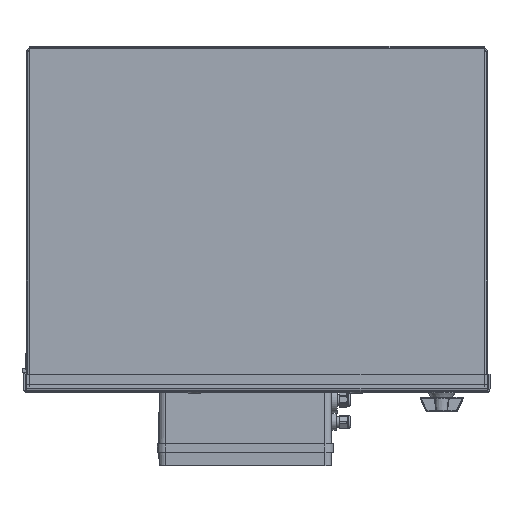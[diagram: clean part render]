
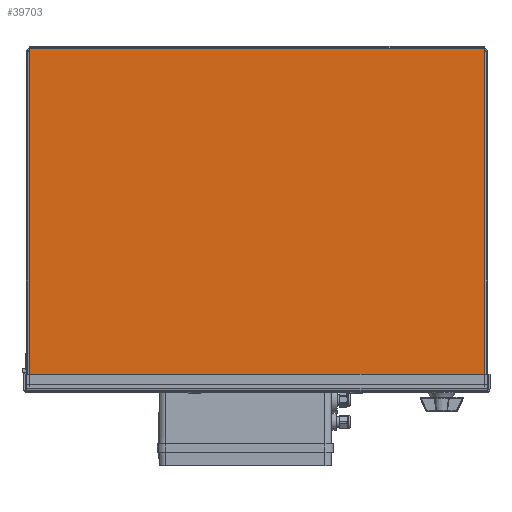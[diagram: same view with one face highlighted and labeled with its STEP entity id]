
A CAD part, top view. The second image highlights one B-rep face of the part: STEP entity #39703.
In plain terms, the highlighted planar face has unit normal (0, 0, 1).
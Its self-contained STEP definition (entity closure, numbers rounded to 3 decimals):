
#3160=CIRCLE('',#42868,0.595);
#3161=CIRCLE('',#42869,0.595);
#3162=CIRCLE('',#42870,0.595);
#3163=CIRCLE('',#42871,0.595);
#5027=FACE_OUTER_BOUND('',#7507,.T.);
#7507=EDGE_LOOP('',(#29099,#29100,#29101,#29102,#29103,#29104,#29105,#29106,
#29107,#29108,#29109,#29110,#29111,#29112,#29113,#29114,#29115,#29116));
#9807=LINE('',#62809,#12859);
#9810=LINE('',#62815,#12862);
#9865=LINE('',#62942,#12917);
#9873=LINE('',#62968,#12925);
#9876=LINE('',#62974,#12928);
#9877=LINE('',#62976,#12929);
#9878=LINE('',#62979,#12930);
#9879=LINE('',#62981,#12931);
#9880=LINE('',#62985,#12932);
#9881=LINE('',#62987,#12933);
#9882=LINE('',#62989,#12934);
#9883=LINE('',#62991,#12935);
#9884=LINE('',#62994,#12936);
#9885=LINE('',#62996,#12937);
#12859=VECTOR('',#49893,2.381);
#12862=VECTOR('',#49900,378.681);
#12917=VECTOR('',#50019,517.063);
#12925=VECTOR('',#50045,517.063);
#12928=VECTOR('',#50052,0.198);
#12929=VECTOR('',#50053,0.198);
#12930=VECTOR('',#50056,0.198);
#12931=VECTOR('',#50057,0.198);
#12932=VECTOR('',#50060,0.198);
#12933=VECTOR('',#50061,2.381);
#12934=VECTOR('',#50062,378.681);
#12935=VECTOR('',#50063,0.198);
#12936=VECTOR('',#50066,0.198);
#12937=VECTOR('',#50067,0.198);
#16480=VERTEX_POINT('',#62800);
#16482=VERTEX_POINT('',#62806);
#16484=VERTEX_POINT('',#62814);
#16523=VERTEX_POINT('',#62939);
#16524=VERTEX_POINT('',#62941);
#16532=VERTEX_POINT('',#62965);
#16533=VERTEX_POINT('',#62967);
#16534=VERTEX_POINT('',#62973);
#16535=VERTEX_POINT('',#62975);
#16536=VERTEX_POINT('',#62977);
#16537=VERTEX_POINT('',#62980);
#16538=VERTEX_POINT('',#62982);
#16539=VERTEX_POINT('',#62984);
#16540=VERTEX_POINT('',#62986);
#16541=VERTEX_POINT('',#62988);
#16542=VERTEX_POINT('',#62990);
#16543=VERTEX_POINT('',#62992);
#16544=VERTEX_POINT('',#62995);
#20968=EDGE_CURVE('',#16480,#16482,#9807,.T.);
#20971=EDGE_CURVE('',#16484,#16480,#9810,.T.);
#21035=EDGE_CURVE('',#16524,#16523,#9865,.T.);
#21048=EDGE_CURVE('',#16533,#16532,#9873,.T.);
#21051=EDGE_CURVE('',#16534,#16484,#9876,.T.);
#21052=EDGE_CURVE('',#16482,#16535,#9877,.T.);
#21053=EDGE_CURVE('',#16535,#16536,#3160,.T.);
#21054=EDGE_CURVE('',#16536,#16533,#9878,.T.);
#21055=EDGE_CURVE('',#16532,#16537,#9879,.T.);
#21056=EDGE_CURVE('',#16537,#16538,#3161,.T.);
#21057=EDGE_CURVE('',#16538,#16539,#9880,.T.);
#21058=EDGE_CURVE('',#16539,#16540,#9881,.T.);
#21059=EDGE_CURVE('',#16540,#16541,#9882,.T.);
#21060=EDGE_CURVE('',#16541,#16542,#9883,.T.);
#21061=EDGE_CURVE('',#16542,#16543,#3162,.T.);
#21062=EDGE_CURVE('',#16543,#16524,#9884,.T.);
#21063=EDGE_CURVE('',#16523,#16544,#9885,.T.);
#21064=EDGE_CURVE('',#16544,#16534,#3163,.T.);
#29099=ORIENTED_EDGE('',*,*,#21051,.T.);
#29100=ORIENTED_EDGE('',*,*,#20971,.T.);
#29101=ORIENTED_EDGE('',*,*,#20968,.T.);
#29102=ORIENTED_EDGE('',*,*,#21052,.T.);
#29103=ORIENTED_EDGE('',*,*,#21053,.T.);
#29104=ORIENTED_EDGE('',*,*,#21054,.T.);
#29105=ORIENTED_EDGE('',*,*,#21048,.T.);
#29106=ORIENTED_EDGE('',*,*,#21055,.T.);
#29107=ORIENTED_EDGE('',*,*,#21056,.T.);
#29108=ORIENTED_EDGE('',*,*,#21057,.T.);
#29109=ORIENTED_EDGE('',*,*,#21058,.T.);
#29110=ORIENTED_EDGE('',*,*,#21059,.T.);
#29111=ORIENTED_EDGE('',*,*,#21060,.T.);
#29112=ORIENTED_EDGE('',*,*,#21061,.T.);
#29113=ORIENTED_EDGE('',*,*,#21062,.T.);
#29114=ORIENTED_EDGE('',*,*,#21035,.T.);
#29115=ORIENTED_EDGE('',*,*,#21063,.T.);
#29116=ORIENTED_EDGE('',*,*,#21064,.T.);
#35708=PLANE('',#42867);
#39703=ADVANCED_FACE('',(#5027),#35708,.T.);
#42867=AXIS2_PLACEMENT_3D('',#62972,#50050,#50051);
#42868=AXIS2_PLACEMENT_3D('',#62978,#50054,#50055);
#42869=AXIS2_PLACEMENT_3D('',#62983,#50058,#50059);
#42870=AXIS2_PLACEMENT_3D('',#62993,#50064,#50065);
#42871=AXIS2_PLACEMENT_3D('',#62997,#50068,#50069);
#49893=DIRECTION('',(0.,1.,0.));
#49900=DIRECTION('',(0.,1.,0.));
#50019=DIRECTION('',(1.,0.,0.));
#50045=DIRECTION('',(-1.,0.,0.));
#50050=DIRECTION('center_axis',(0.,0.,
1.));
#50051=DIRECTION('ref_axis',(1.,0.,0.));
#50052=DIRECTION('',(1.,0.,0.));
#50053=DIRECTION('',(-1.,0.,0.));
#50054=DIRECTION('center_axis',(0.,0.,
-1.));
#50055=DIRECTION('ref_axis',(0.,-1.,0.));
#50056=DIRECTION('',(0.,1.,0.));
#50057=DIRECTION('',(0.,-1.,0.));
#50058=DIRECTION('center_axis',(0.,0.,
-1.));
#50059=DIRECTION('ref_axis',(0.,-1.,0.));
#50060=DIRECTION('',(-1.,0.,0.));
#50061=DIRECTION('',(0.,-1.,0.));
#50062=DIRECTION('',(0.,-1.,0.));
#50063=DIRECTION('',(1.,0.,0.));
#50064=DIRECTION('center_axis',(0.,0.,
-1.));
#50065=DIRECTION('ref_axis',(0.,1.,0.));
#50066=DIRECTION('',(0.,-1.,0.));
#50067=DIRECTION('',(0.,1.,0.));
#50068=DIRECTION('center_axis',(0.,0.,
-1.));
#50069=DIRECTION('ref_axis',(0.,1.,0.));
#62800=CARTESIAN_POINT('',(-276.762,-103.673,410.995));
#62806=CARTESIAN_POINT('',(-276.762,-101.292,410.995));
#62809=CARTESIAN_POINT('',(-276.762,-387.088,410.995));
#62814=CARTESIAN_POINT('',(-276.762,-482.354,410.995));
#62815=CARTESIAN_POINT('',(-276.762,-387.088,410.995));
#62939=CARTESIAN_POINT('',(-277.556,-483.148,410.995));
#62941=CARTESIAN_POINT('',(-794.618,-483.148,410.995));
#62942=CARTESIAN_POINT('',(-405.984,-483.148,410.995));
#62965=CARTESIAN_POINT('',(-794.618,-100.498,410.995));
#62967=CARTESIAN_POINT('',(-277.556,-100.498,410.995));
#62968=CARTESIAN_POINT('',(-405.984,-100.498,410.995));
#62972=CARTESIAN_POINT('Origin',(-536.087,-291.823,410.995));
#62973=CARTESIAN_POINT('',(-276.96,-482.354,410.995));
#62974=CARTESIAN_POINT('',(-405.687,-482.354,410.995));
#62975=CARTESIAN_POINT('',(-276.96,-101.292,410.995));
#62976=CARTESIAN_POINT('',(-406.524,-101.292,410.995));
#62977=CARTESIAN_POINT('',(-277.556,-100.696,410.995));
#62978=CARTESIAN_POINT('Origin',(-276.96,-100.696,410.995));
#62979=CARTESIAN_POINT('',(-277.556,-196.16,410.995));
#62980=CARTESIAN_POINT('',(-794.618,-100.696,410.995));
#62981=CARTESIAN_POINT('',(-794.618,-196.16,410.995));
#62982=CARTESIAN_POINT('',(-795.214,-101.292,410.995));
#62983=CARTESIAN_POINT('Origin',(-795.214,-100.696,410.995));
#62984=CARTESIAN_POINT('',(-795.412,-101.292,410.995));
#62985=CARTESIAN_POINT('',(-665.65,-101.292,410.995));
#62986=CARTESIAN_POINT('',(-795.412,-103.673,410.995));
#62987=CARTESIAN_POINT('',(-795.412,-387.088,410.995));
#62988=CARTESIAN_POINT('',(-795.412,-482.354,410.995));
#62989=CARTESIAN_POINT('',(-795.412,-387.088,410.995));
#62990=CARTESIAN_POINT('',(-795.214,-482.354,410.995));
#62991=CARTESIAN_POINT('',(-666.487,-482.354,410.995));
#62992=CARTESIAN_POINT('',(-794.618,-482.949,410.995));
#62993=CARTESIAN_POINT('Origin',(-795.214,-482.949,410.995));
#62994=CARTESIAN_POINT('',(-794.618,-387.386,410.995));
#62995=CARTESIAN_POINT('',(-277.556,-482.949,410.995));
#62996=CARTESIAN_POINT('',(-277.556,-387.386,410.995));
#62997=CARTESIAN_POINT('Origin',(-276.96,-482.949,410.995));
